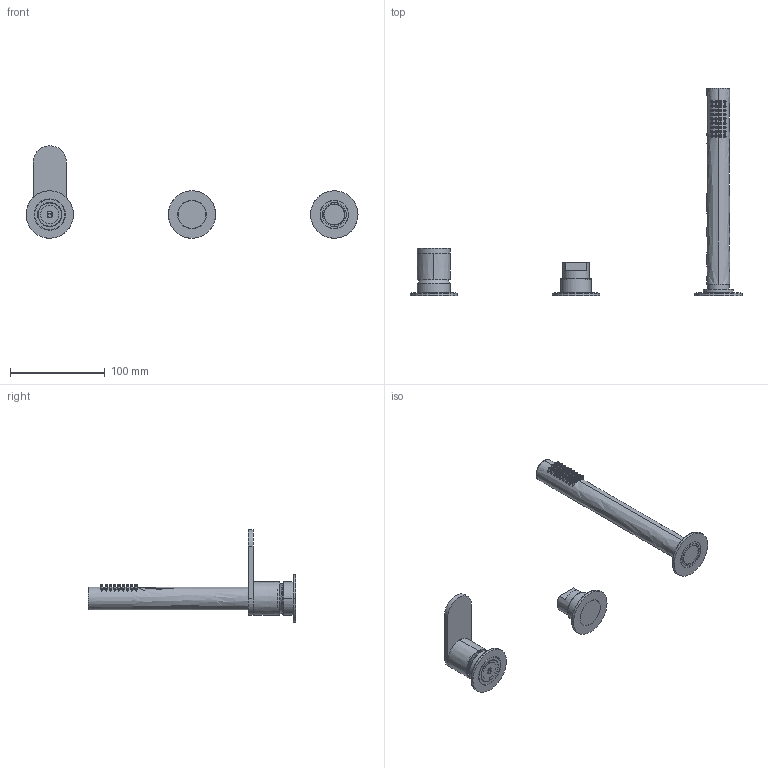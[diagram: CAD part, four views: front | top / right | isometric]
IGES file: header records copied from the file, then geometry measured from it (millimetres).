
Start section:  PTC IGES file: 79028.igs
Global section: file name: 79028.igs; native system: Creo Parametric by PTC Inc.; preprocessor: 2025443; author: carloff; organization: Unknown; date: 20261005.114920; units: millimetre
Bounding box: 350 x 219 x 97.51 mm (x, y, z)
Surface area: 67134.1 mm2 (no closed solid volume)
Topology: 0 solids, 0 shells, 1081 faces, 4690 edges, 4630 vertices
Faces by surface type: revolution 797, bspline 284
